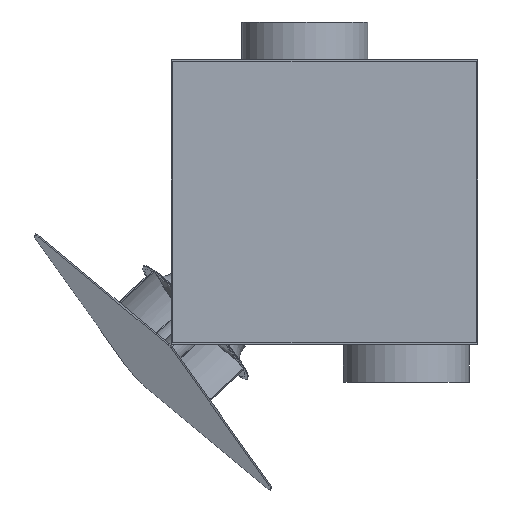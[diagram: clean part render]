
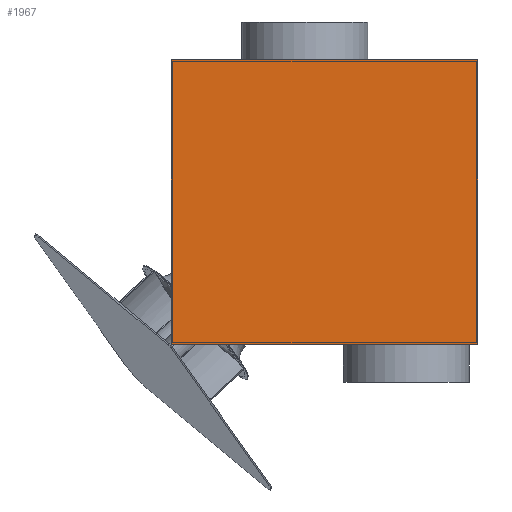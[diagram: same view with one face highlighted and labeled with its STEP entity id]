
A CAD part, top view. The second image highlights one B-rep face of the part: STEP entity #1967.
In plain terms, the highlighted planar face has unit normal (0, 0, 1).
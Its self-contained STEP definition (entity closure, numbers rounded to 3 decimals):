
#136=PLANE('',#2228);
#254=FACE_OUTER_BOUND('',#390,.T.);
#390=EDGE_LOOP('',(#1795,#1796,#1797,#1798));
#483=LINE('',#3564,#610);
#515=LINE('',#3657,#642);
#518=LINE('',#3661,#645);
#519=LINE('',#3663,#646);
#610=VECTOR('',#2760,10.);
#642=VECTOR('',#2852,10.);
#645=VECTOR('',#2857,10.);
#646=VECTOR('',#2860,10.);
#924=VERTEX_POINT('',#3561);
#925=VERTEX_POINT('',#3563);
#955=VERTEX_POINT('',#3654);
#956=VERTEX_POINT('',#3656);
#1193=EDGE_CURVE('',#924,#925,#483,.T.);
#1237=EDGE_CURVE('',#955,#956,#515,.T.);
#1240=EDGE_CURVE('',#955,#925,#518,.T.);
#1241=EDGE_CURVE('',#956,#924,#519,.T.);
#1795=ORIENTED_EDGE('',*,*,#1240,.T.);
#1796=ORIENTED_EDGE('',*,*,#1193,.F.);
#1797=ORIENTED_EDGE('',*,*,#1241,.F.);
#1798=ORIENTED_EDGE('',*,*,#1237,.F.);
#1967=ADVANCED_FACE('',(#254),#136,.T.);
#2228=AXIS2_PLACEMENT_3D('',#3662,#2858,#2859);
#2760=DIRECTION('',(1.,0.,0.));
#2852=DIRECTION('',(-1.,0.,0.));
#2857=DIRECTION('',(0.,1.,0.));
#2858=DIRECTION('center_axis',(0.,0.,1.));
#2859=DIRECTION('ref_axis',(1.,0.,0.));
#2860=DIRECTION('',(0.,1.,0.));
#3561=CARTESIAN_POINT('',(-195.,181.,124.));
#3563=CARTESIAN_POINT('',(195.,181.,124.));
#3564=CARTESIAN_POINT('',(-195.,181.,124.));
#3654=CARTESIAN_POINT('',(195.,-181.,124.));
#3656=CARTESIAN_POINT('',(-195.,-181.,124.));
#3657=CARTESIAN_POINT('',(-195.,-181.,124.));
#3661=CARTESIAN_POINT('',(195.,0.,124.));
#3662=CARTESIAN_POINT('Origin',(-195.,0.,124.));
#3663=CARTESIAN_POINT('',(-195.,0.,124.));
